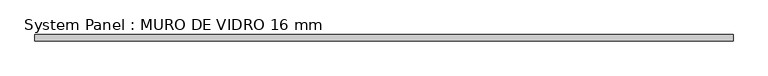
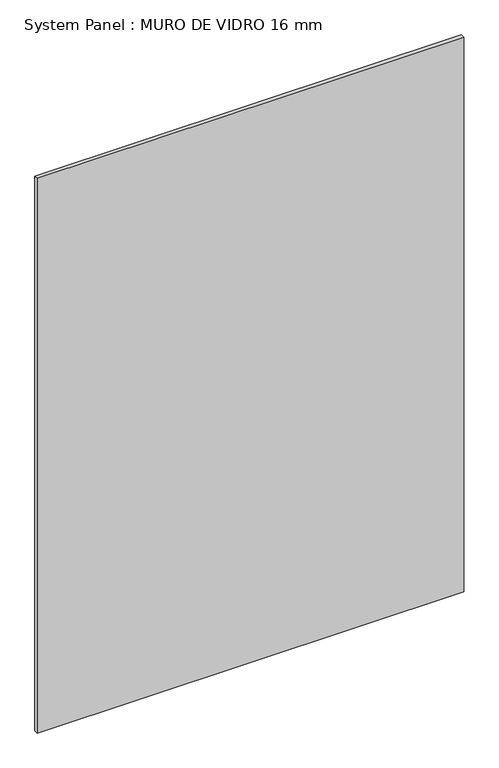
"""IFC4 building model written with IfcOpenShell, lengths in millimetres: plate geometry, System Panel : MURO DE VIDRO 16 mm."""

import ifcopenshell
import ifcopenshell.guid

model = None  # the IFC model being written
_history = None  # IfcOwnerHistory: only IFC2X3 demands one
_inside = {}  # id of a spatial element -> (the spatial element, [elements in it])
_under = {}  # id of a project, library or spatial element -> (it, [spatial elements below it])
_declared = {}  # id of a project -> (the project, [libraries it declares])
_typed = {}  # id of a type object -> (the type object, [elements of that type])
_made_of = {}  # id of a material, layer set ... -> (it, [elements and type objects made of it])


def new_model(schema):
    """Start an empty IFC model of exactly this schema.

    Asked for "IFC4X3", IfcOpenShell would pick the latest addendum, in which some entities
    have other attributes; the version numbers below select the first issue.
    IFC2X3 requires an IfcOwnerHistory on every rooted entity: one is made here for all.
    """
    global model, _history
    if schema == "IFC4X3":
        model = ifcopenshell.file(schema_version=(4, 3, 0, 0))
    else:
        model = ifcopenshell.file(schema=schema)
    _inside.clear()
    _under.clear()
    _declared.clear()
    _typed.clear()
    _made_of.clear()
    _history = None
    if model.schema == "IFC2X3":
        org = make("IfcOrganization", Name="unknown")
        user = make(
            "IfcPersonAndOrganization",
            ThePerson=make("IfcPerson", FamilyName="unknown"),
            TheOrganization=org,
        )
        app = make(
            "IfcApplication",
            ApplicationDeveloper=org,
            Version="unknown",
            ApplicationFullName="unknown",
            ApplicationIdentifier="unknown",
        )
        _history = make(
            "IfcOwnerHistory",
            OwningUser=user,
            OwningApplication=app,
            ChangeAction="ADDED",
            CreationDate=0,
        )
    return model


def make(cls, **values):
    """One entity of the class cls with the attributes given. An attribute that is None is left unset."""
    return model.create_entity(
        cls, **{name: value for name, value in values.items() if value is not None}
    )


def rooted(cls, **values):
    """An entity with a GlobalId (a new one), such as an element, a storey or a relation."""
    return make(cls, GlobalId=ifcopenshell.guid.new(), OwnerHistory=_history, **values)


def si_unit(unit_type, name, prefix=None):
    """IfcSIUnit, for example si_unit("LENGTHUNIT", "METRE", prefix="MILLI")."""
    return make("IfcSIUnit", UnitType=unit_type, Prefix=prefix, Name=name)


def assignment(units):
    """IfcUnitAssignment: the units of a project."""
    return None if units is None else make("IfcUnitAssignment", Units=units)


def point(xyz):
    """IfcCartesianPoint."""
    return None if xyz is None else make("IfcCartesianPoint", Coordinates=xyz)


def direction(xyz):
    """IfcDirection."""
    return None if xyz is None else make("IfcDirection", DirectionRatios=xyz)


def frame(location, z_axis=None, x_axis=None):
    """IfcAxis2Placement3D, a coordinate frame: its origin and axes. An axis left out is left unset."""
    return make(
        "IfcAxis2Placement3D",
        Location=point(location),
        Axis=direction(z_axis),
        RefDirection=direction(x_axis),
    )


def origin():
    """The frame at (0, 0, 0) with its axes left unset."""
    return frame((0.0, 0.0, 0.0))


def origin_with_axes():
    """The frame at (0, 0, 0) with the z axis (0, 0, 1) and the x axis (1, 0, 0) written out."""
    return frame((0.0, 0.0, 0.0), z_axis=(0.0, 0.0, 1.0), x_axis=(1.0, 0.0, 0.0))


def place(relative_to, where):
    """IfcLocalPlacement: puts the frame where relative to a parent placement (None: the world)."""
    return make(
        "IfcLocalPlacement", PlacementRelTo=relative_to, RelativePlacement=where
    )


def context(
    kind, dimensions, precision=None, world=None, true_north=None, identifier=None
):
    """IfcGeometricRepresentationContext, for example the 3D "Model" context."""
    return make(
        "IfcGeometricRepresentationContext",
        ContextIdentifier=identifier,
        ContextType=kind,
        CoordinateSpaceDimension=dimensions,
        Precision=precision,
        WorldCoordinateSystem=world,
        TrueNorth=true_north,
    )


def project(units=None, contexts=None):
    """IfcProject with its units and contexts."""
    return rooted(
        "IfcProject",
        Name="project",
        RepresentationContexts=contexts,
        UnitsInContext=assignment(units),
    )


def spatial(cls, under=None, at=None, **own):
    """A site, building, storey or space (cls), placed at a placement, below another one or the project."""
    s = rooted(cls, ObjectPlacement=at, **own)
    if under is not None:
        _under.setdefault(under.id(), (under, []))[1].append(s)
    return s


def polyline(points):
    """IfcPolyline through the points."""
    return make("IfcPolyline", Points=[point(p) for p in points])


def outline(outer, holes=None, kind="AREA"):
    """IfcArbitraryClosedProfileDef: a profile drawn as a closed curve; with holes, ...WithVoids."""
    if holes is None:
        return make("IfcArbitraryClosedProfileDef", ProfileType=kind, OuterCurve=outer)
    return make(
        "IfcArbitraryProfileDefWithVoids",
        ProfileType=kind,
        OuterCurve=outer,
        InnerCurves=holes,
    )


def extrude(swept, where, along, depth):
    """IfcExtrudedAreaSolid: the profile swept, set in the frame where, extruded along a direction by depth."""
    return make(
        "IfcExtrudedAreaSolid",
        SweptArea=swept,
        Position=where,
        ExtrudedDirection=direction(along),
        Depth=depth,
    )


def shape(context_of_items, identifier, shape_type, items):
    """IfcShapeRepresentation: the items that make up one representation, for example the "Body"."""
    return make(
        "IfcShapeRepresentation",
        ContextOfItems=context_of_items,
        RepresentationIdentifier=identifier,
        RepresentationType=shape_type,
        Items=items,
    )


def source(mapping_origin, context_of_items, identifier, shape_type, items):
    """IfcRepresentationMap: a shape defined once, which mapped items show again and again."""
    return make(
        "IfcRepresentationMap",
        MappingOrigin=mapping_origin,
        MappedRepresentation=shape(context_of_items, identifier, shape_type, items),
    )


def transform(
    local_origin,
    x_axis=None,
    y_axis=None,
    z_axis=None,
    scale=None,
    scale2=None,
    scale3=None,
    uniform=True,
):
    """IfcCartesianTransformationOperator3D, or its non-uniform kind. x_axis, y_axis, z_axis: its Axis1, 2, 3."""
    if uniform:
        return make(
            "IfcCartesianTransformationOperator3D",
            Axis1=direction(x_axis),
            Axis2=direction(y_axis),
            LocalOrigin=point(local_origin),
            Scale=scale,
            Axis3=direction(z_axis),
        )
    return make(
        "IfcCartesianTransformationOperator3DnonUniform",
        Axis1=direction(x_axis),
        Axis2=direction(y_axis),
        LocalOrigin=point(local_origin),
        Scale=scale,
        Axis3=direction(z_axis),
        Scale2=scale2,
        Scale3=scale3,
    )


def mapped(mapping_source, mapping_target):
    """IfcMappedItem: shows the shape of a source again, moved by a transform."""
    return make(
        "IfcMappedItem", MappingSource=mapping_source, MappingTarget=mapping_target
    )


def made_of(thing, what):
    """Note that an element or type object is made of a material, layer set ...; save() writes the relation."""
    if what is not None:
        _made_of.setdefault(what.id(), (what, []))[1].append(thing)
    return thing


def element(
    cls,
    number,
    at=None,
    inside=None,
    cuts=None,
    type_object=None,
    material=None,
    context=None,
    identifier="Body",
    shape_type=None,
    held_by="IfcProductDefinitionShape",
    body=None,
    shapes=None,
    **own,
):
    """One element of the class cls, such as IfcWall. Its Tag is "e" and its number.

    at: its placement. inside: the storey or other place that contains it. cuts: it is an
    opening in that element (IfcRelVoidsElement). A single representation is given by context,
    identifier, shape_type and body (its items); several are given by shapes. held_by: the class
    of the entity that holds the representations. save() writes the other relations.
    """
    e = rooted(cls, Tag="e%d" % number, ObjectPlacement=at, **own)
    if body is not None:
        shapes = [shape(context, identifier, shape_type, body)]
    if shapes is not None:
        e.Representation = make(held_by, Representations=shapes)
    if inside is not None:
        _inside.setdefault(inside.id(), (inside, []))[1].append(e)
    if cuts is not None:
        rooted(
            "IfcRelVoidsElement", RelatingBuildingElement=cuts, RelatedOpeningElement=e
        )
    if type_object is not None:
        _typed.setdefault(type_object.id(), (type_object, []))[1].append(e)
    return made_of(e, material)


def aggregate(whole, parts):
    """IfcRelAggregates: a whole, such as a stair, and the parts it consists of."""
    return rooted("IfcRelAggregates", RelatingObject=whole, RelatedObjects=parts)


def save(model, path):
    """Write the relations noted so far, then the file.

    IfcRelAggregates (storeys below a building ...), IfcRelContainedInSpatialStructure (elements
    in a storey), IfcRelDefinesByType, IfcRelAssociatesMaterial and IfcRelDeclares: one each for
    every whole, place, type object, material and project.
    """
    for whole, parts in _under.values():
        aggregate(whole, parts)
    for where, things in _inside.values():
        rooted(
            "IfcRelContainedInSpatialStructure",
            RelatedElements=things,
            RelatingStructure=where,
        )
    for kind, things in _typed.values():
        rooted("IfcRelDefinesByType", RelatedObjects=things, RelatingType=kind)
    for what, things in _made_of.values():
        rooted("IfcRelAssociatesMaterial", RelatedObjects=things, RelatingMaterial=what)
    for by, libraries in _declared.values():
        rooted("IfcRelDeclares", RelatingContext=by, RelatedDefinitions=libraries)
    model.write(path)


def system_panel_muro_de_vidro_16_mm_785279bf(model_context):
    return source(origin(), model_context, "Body", "SweptSolid", [
        extrude(outline(polyline([(909.0546893, -8.0), (-909.0546893, -8.0), (-909.0546893, 8.0), (909.0546893, 8.0), (909.0546893, -8.0)])), origin_with_axes(), (0.0, 0.0, 1.0), 2500.0),
    ])


if __name__ == "__main__":
    model = new_model("IFC4")
    model_context = context("Model", 3, world=origin())
    ifc_project = project(units=[si_unit("LENGTHUNIT", "METRE", prefix="MILLI")], contexts=[model_context])
    site = spatial("IfcSite", under=ifc_project)
    building = spatial("IfcBuilding", under=site)
    placement = place(None, origin())
    system_panel_muro_de_vidro_16_mm_shape = system_panel_muro_de_vidro_16_mm_785279bf(model_context)
    element("IfcPlate", 1, ObjectType="System Panel : MURO DE VIDRO 16 mm", at=placement, inside=building, context=model_context, shape_type="MappedRepresentation", body=[
        mapped(system_panel_muro_de_vidro_16_mm_shape, transform((0.0, 0.0, 0.0), x_axis=(1.0, 0.0, 0.0), y_axis=(0.0, 1.0, 0.0), z_axis=(0.0, 0.0, 1.0))),
    ])
    save(model, "model.ifc")
